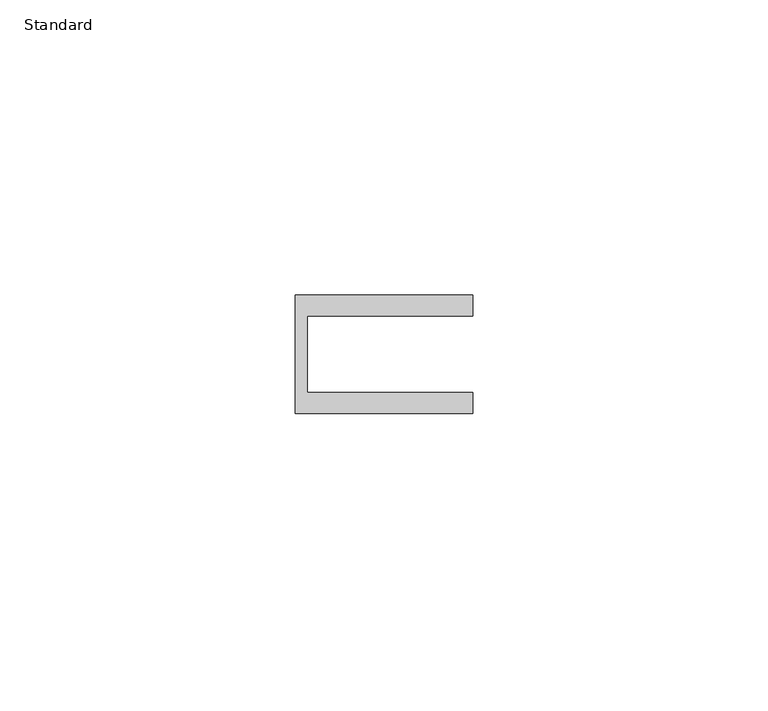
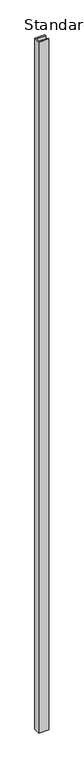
"""IFC4 building model written with IfcOpenShell, lengths in millimetres: furniture geometry, X_Partition-Channel-Duracube-End : Standard."""

from ifc_helpers import new_model, si_unit, frame, origin, place, context, project, spatial, polyline, outline, extrude, source, transform, mapped, element, save


def standard_7c3ea897(model_context):
    return source(origin(), model_context, "Body", "SweptSolid", [
        extrude(outline(polyline([(31.7003264, 0.0), (59.7003264, 0.0), (59.7003264, -3.5), (29.7003264, -3.5), (29.7003264, 16.5), (59.7003264, 16.5), (59.7003264, 13.0), (31.7003264, 13.0), (31.7003264, 0.0)])), frame((0.0, 0.0, 200.0), z_axis=(0.0, 0.0, 1.0), x_axis=(1.0, 0.0, 0.0)), (0.0, 0.0, 1.0), 2200.0),
    ])


if __name__ == "__main__":
    model = new_model("IFC4")
    model_context = context("Model", 3, world=origin())
    ifc_project = project(units=[si_unit("LENGTHUNIT", "METRE", prefix="MILLI")], contexts=[model_context])
    site = spatial("IfcSite", under=ifc_project)
    building = spatial("IfcBuilding", under=site)
    placement = place(None, origin())
    standard_shape = standard_7c3ea897(model_context)
    element("IfcFurniture", 1, ObjectType="X_Partition-Channel-Duracube-End : Standard", at=placement, inside=building, context=model_context, shape_type="MappedRepresentation", body=[
        mapped(standard_shape, transform((0.0, 0.0, 0.0), x_axis=(1.0, 0.0, 0.0), y_axis=(0.0, 1.0, 0.0), z_axis=(0.0, 0.0, 1.0))),
    ])
    save(model, "model.ifc")
